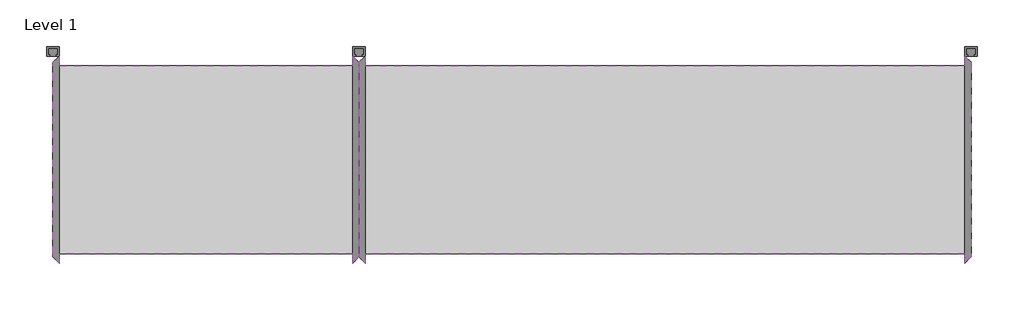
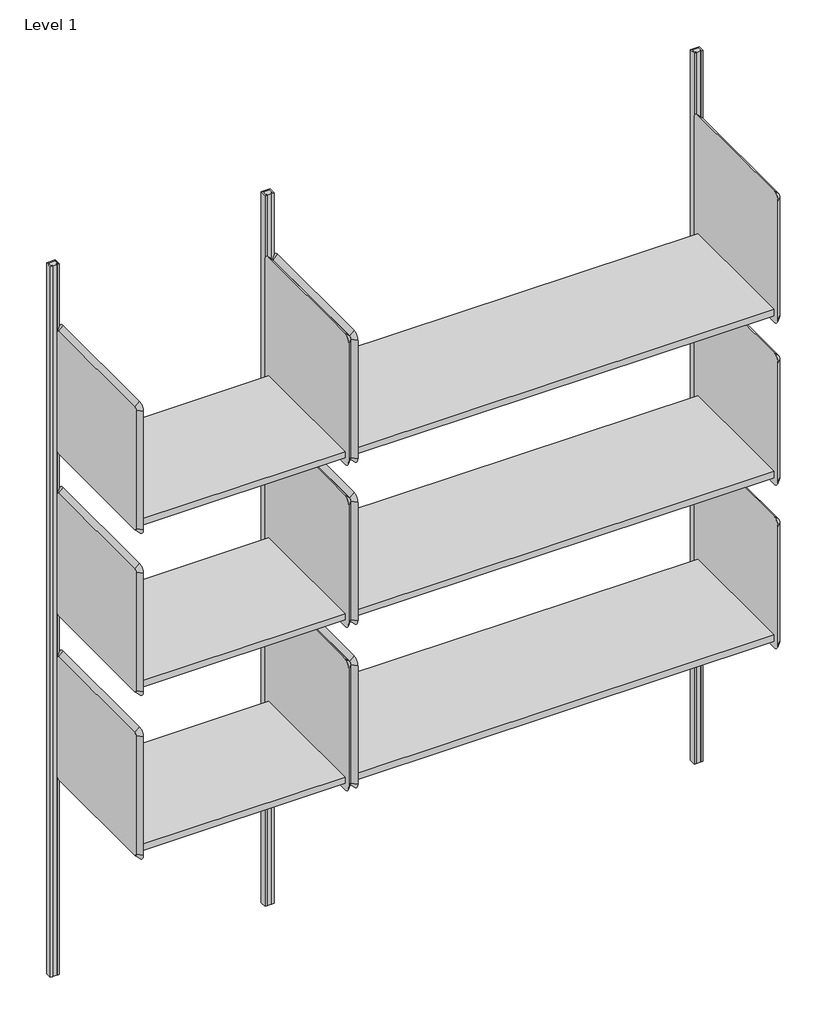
# One storey: 9 furniture elements.
"""IFC4 building model written with IfcOpenShell, lengths in millimetres."""

from ifc_helpers import new_model, si_unit, origin, place, context, project, spatial, transform, mapped, element, save
from components import furniture_2a73d1df, furniture_0d076a1c, furniture_85efdc16, furniture_35620e82, furniture_e0694ae7, furniture_88821f83, furniture_ea425779

model = new_model("IFC4")

# Units and contexts
model_context = context("Model", 3, world=origin())
ifc_project = project(units=[si_unit("LENGTHUNIT", "METRE", prefix="MILLI")], contexts=[model_context])

# Site, building, storey
site = spatial("IfcSite", under=ifc_project)
building = spatial("IfcBuilding", under=site)
storey = spatial("IfcBuildingStorey", under=building, Name="Level 1", Elevation=0.0)

# Furniture
placement = place(None, origin())
furniture_shape = furniture_2a73d1df(model_context)
element("IfcFurniture", 1, ObjectType="HermanMiller_ActionOffice_A3210_B-StyleShelf : 15-1/2H 16D 24W", at=placement, inside=storey, context=model_context, shape_type="MappedRepresentation", body=[
    mapped(furniture_shape, transform((428.7420045, -238.125, 0.0), x_axis=(1.0, 0.0, 0.0), y_axis=(0.0, 1.0, 0.0), z_axis=(0.0, 0.0, 1.0))),
])
furniture_2_shape = furniture_0d076a1c(model_context)
element("IfcFurniture", 2, ObjectType="HermanMiller_ActionOffice_A3210_B-StyleShelf : 15-1/2H 16D 24W", at=placement, inside=storey, context=model_context, shape_type="MappedRepresentation", body=[
    mapped(furniture_2_shape, transform((428.7420045, -238.125, 0.0), x_axis=(1.0, 0.0, 0.0), y_axis=(0.0, 1.0, 0.0), z_axis=(0.0, 0.0, 1.0))),
])
furniture_3_shape = furniture_85efdc16(model_context)
element("IfcFurniture", 3, ObjectType="HermanMiller_ActionOffice_A3210_B-StyleShelf : 15-1/2H 16D 48W", at=placement, inside=storey, context=model_context, shape_type="MappedRepresentation", body=[
    mapped(furniture_3_shape, transform((1343.1420045, -238.125, 0.0), x_axis=(1.0, 0.0, 0.0), y_axis=(0.0, 1.0, 0.0), z_axis=(0.0, 0.0, 1.0))),
])
furniture_4_shape = furniture_35620e82(model_context)
element("IfcFurniture", 4, ObjectType="HermanMiller_ActionOffice_A3210_B-StyleShelf : 15-1/2H 16D 48W", at=placement, inside=storey, context=model_context, shape_type="MappedRepresentation", body=[
    mapped(furniture_4_shape, transform((1343.1420045, -238.125, 0.0), x_axis=(1.0, 0.0, 0.0), y_axis=(0.0, 1.0, 0.0), z_axis=(0.0, 0.0, 1.0))),
])
furniture_5_shape = furniture_e0694ae7(model_context)
element("IfcFurniture", 5, ObjectType="HermanMiller_ActionOffice_A3210_B-StyleShelf : 15-1/2H 16D 48W", at=placement, inside=storey, context=model_context, shape_type="MappedRepresentation", body=[
    mapped(furniture_5_shape, transform((1343.1420045, -238.125, 0.0), x_axis=(1.0, 0.0, 0.0), y_axis=(0.0, 1.0, 0.0), z_axis=(0.0, 0.0, 1.0))),
])
furniture_6_shape = furniture_88821f83(model_context)
element("IfcFurniture", 6, ObjectType="HermanMiller_ActionOffice_A3210_B-StyleShelf : 15-1/2H 16D 24W", at=placement, inside=storey, context=model_context, shape_type="MappedRepresentation", body=[
    mapped(furniture_6_shape, transform((428.7420045, -238.125, 0.0), x_axis=(1.0, 0.0, 0.0), y_axis=(0.0, 1.0, 0.0), z_axis=(0.0, 0.0, 1.0))),
])
furniture_7_shape = furniture_ea425779(model_context)
element("IfcFurniture", 7, ObjectType="HermanMiller_ActionOffice_AO213_WallStrip : 84\"H", at=placement, inside=storey, context=model_context, shape_type="MappedRepresentation", body=[
    mapped(furniture_7_shape, transform((1828.8, 0.0, 0.0), x_axis=(1.0, 0.0, 0.0), y_axis=(0.0, 1.0, 0.0), z_axis=(0.0, 0.0, 1.0))),
])
element("IfcFurniture", 8, ObjectType="HermanMiller_ActionOffice_AO213_WallStrip : 84\"H", at=placement, inside=storey, context=model_context, shape_type="MappedRepresentation", body=[
    mapped(furniture_7_shape, transform((609.6, 0.0, 0.0), x_axis=(1.0, 0.0, 0.0), y_axis=(0.0, 1.0, 0.0), z_axis=(0.0, 0.0, 1.0))),
])
element("IfcFurniture", 9, ObjectType="HermanMiller_ActionOffice_AO213_WallStrip : 84\"H", at=placement, inside=storey, context=model_context, shape_type="MappedRepresentation", body=[
    mapped(furniture_7_shape, transform((0.0, 0.0, 0.0), x_axis=(1.0, 0.0, 0.0), y_axis=(0.0, 1.0, 0.0), z_axis=(0.0, 0.0, 1.0))),
])

save(model, "model.ifc")
